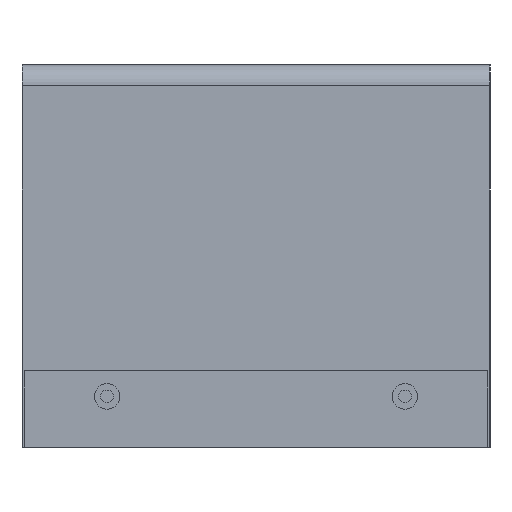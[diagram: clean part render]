
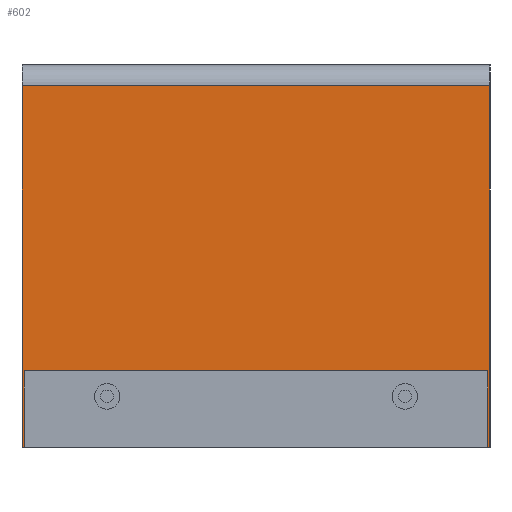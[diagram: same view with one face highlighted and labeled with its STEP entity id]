
A CAD part, left-side view. The second image highlights one B-rep face of the part: STEP entity #602.
In plain terms, the highlighted planar face has unit normal (-1, 0, 0).
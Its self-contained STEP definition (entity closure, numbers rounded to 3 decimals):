
#3 = CARTESIAN_POINT ( 'NONE',  ( -498.5, 55., 85. ) ) ;
#32 = CARTESIAN_POINT ( 'NONE',  ( -498.5, 55., 85. ) ) ;
#159 = CARTESIAN_POINT ( 'NONE',  ( -498.5, -55., 85. ) ) ;
#203 = DIRECTION ( 'NONE',  ( 1., 0., 0. ) ) ;
#322 = AXIS2_PLACEMENT_3D ( 'NONE', #159, #6054, #687 ) ;
#323 = CARTESIAN_POINT ( 'NONE',  ( -498.5, -35., 12. ) ) ;
#407 = CARTESIAN_POINT ( 'NONE',  ( -498.5, 55., 0. ) ) ;
#568 = EDGE_LOOP ( 'NONE', ( #5160, #962 ) ) ;
#584 = ORIENTED_EDGE ( 'NONE', *, *, #2586, .T. ) ;
#602 = ADVANCED_FACE ( 'NONE', ( #3729, #1257, #4653 ), #3622, .F. ) ;
#687 = DIRECTION ( 'NONE',  ( 0., 0., -1. ) ) ;
#697 = DIRECTION ( 'NONE',  ( 0., 0., -1. ) ) ;
#731 = VERTEX_POINT ( 'NONE', #4988 ) ;
#773 = EDGE_CURVE ( 'NONE', #1882, #3939, #6230, .T. ) ;
#855 = DIRECTION ( 'NONE',  ( 0., 0., 1. ) ) ;
#883 = VERTEX_POINT ( 'NONE', #2433 ) ;
#912 = LINE ( 'NONE', #2662, #919 ) ;
#919 = VECTOR ( 'NONE', #4632, 1000. ) ;
#962 = ORIENTED_EDGE ( 'NONE', *, *, #5222, .T. ) ;
#1131 = VECTOR ( 'NONE', #3526, 1000. ) ;
#1214 = CIRCLE ( 'NONE', #4384, 3. ) ;
#1257 = FACE_BOUND ( 'NONE', #5240, .T. ) ;
#1320 = CARTESIAN_POINT ( 'NONE',  ( -498.5, 35., 15. ) ) ;
#1366 = AXIS2_PLACEMENT_3D ( 'NONE', #323, #3797, #855 ) ;
#1371 = DIRECTION ( 'NONE',  ( -1., 0., 0. ) ) ;
#1604 = EDGE_CURVE ( 'NONE', #2894, #883, #4039, .T. ) ;
#1614 = DIRECTION ( 'NONE',  ( 1., 0., 0. ) ) ;
#1772 = ORIENTED_EDGE ( 'NONE', *, *, #3875, .F. ) ;
#1882 = VERTEX_POINT ( 'NONE', #1320 ) ;
#2060 = DIRECTION ( 'NONE',  ( 0., 0., 1. ) ) ;
#2085 = VERTEX_POINT ( 'NONE', #3 ) ;
#2089 = CARTESIAN_POINT ( 'NONE',  ( -498.5, 35., 12. ) ) ;
#2254 = CIRCLE ( 'NONE', #1366, 3. ) ;
#2289 = VERTEX_POINT ( 'NONE', #5194 ) ;
#2370 = ORIENTED_EDGE ( 'NONE', *, *, #1604, .T. ) ;
#2433 = CARTESIAN_POINT ( 'NONE',  ( -498.5, -55., 0. ) ) ;
#2545 = LINE ( 'NONE', #4538, #3268 ) ;
#2586 = EDGE_CURVE ( 'NONE', #2289, #2085, #2545, .T. ) ;
#2662 = CARTESIAN_POINT ( 'NONE',  ( -498.5, -55., 85. ) ) ;
#2807 = CARTESIAN_POINT ( 'NONE',  ( -498.5, -35., 9. ) ) ;
#2851 = VERTEX_POINT ( 'NONE', #2807 ) ;
#2894 = VERTEX_POINT ( 'NONE', #407 ) ;
#3154 = CARTESIAN_POINT ( 'NONE',  ( -498.5, 35., 12. ) ) ;
#3242 = EDGE_CURVE ( 'NONE', #2085, #2894, #4607, .T. ) ;
#3268 = VECTOR ( 'NONE', #4768, 1000. ) ;
#3479 = CIRCLE ( 'NONE', #5963, 3. ) ;
#3526 = DIRECTION ( 'NONE',  ( 0., -1., 0. ) ) ;
#3622 = PLANE ( 'NONE',  #322 ) ;
#3680 = DIRECTION ( 'NONE',  ( 0., 0., 1. ) ) ;
#3729 = FACE_BOUND ( 'NONE', #568, .T. ) ;
#3797 = DIRECTION ( 'NONE',  ( -1., 0., 0. ) ) ;
#3849 = CARTESIAN_POINT ( 'NONE',  ( -498.5, 35., 9. ) ) ;
#3875 = EDGE_CURVE ( 'NONE', #731, #2851, #2254, .T. ) ;
#3939 = VERTEX_POINT ( 'NONE', #3849 ) ;
#4039 = LINE ( 'NONE', #5243, #1131 ) ;
#4178 = ORIENTED_EDGE ( 'NONE', *, *, #3242, .T. ) ;
#4308 = CARTESIAN_POINT ( 'NONE',  ( -498.5, -35., 12. ) ) ;
#4372 = VECTOR ( 'NONE', #697, 1000. ) ;
#4374 = EDGE_CURVE ( 'NONE', #883, #2289, #912, .T. ) ;
#4384 = AXIS2_PLACEMENT_3D ( 'NONE', #3154, #203, #3680 ) ;
#4431 = AXIS2_PLACEMENT_3D ( 'NONE', #2089, #1614, #2060 ) ;
#4538 = CARTESIAN_POINT ( 'NONE',  ( -498.5, -55., 85. ) ) ;
#4607 = LINE ( 'NONE', #32, #4372 ) ;
#4632 = DIRECTION ( 'NONE',  ( 0., 0., 1. ) ) ;
#4653 = FACE_OUTER_BOUND ( 'NONE', #4903, .T. ) ;
#4768 = DIRECTION ( 'NONE',  ( 0., 1., 0. ) ) ;
#4802 = DIRECTION ( 'NONE',  ( 0., 0., 1. ) ) ;
#4903 = EDGE_LOOP ( 'NONE', ( #5788, #584, #4178, #2370 ) ) ;
#4988 = CARTESIAN_POINT ( 'NONE',  ( -498.5, -35., 15. ) ) ;
#5160 = ORIENTED_EDGE ( 'NONE', *, *, #773, .T. ) ;
#5194 = CARTESIAN_POINT ( 'NONE',  ( -498.5, -55., 85. ) ) ;
#5222 = EDGE_CURVE ( 'NONE', #3939, #1882, #1214, .T. ) ;
#5240 = EDGE_LOOP ( 'NONE', ( #1772, #6247 ) ) ;
#5243 = CARTESIAN_POINT ( 'NONE',  ( -498.5, -55., 0. ) ) ;
#5788 = ORIENTED_EDGE ( 'NONE', *, *, #4374, .T. ) ;
#5963 = AXIS2_PLACEMENT_3D ( 'NONE', #4308, #1371, #4802 ) ;
#6054 = DIRECTION ( 'NONE',  ( 1., 0., 0. ) ) ;
#6102 = EDGE_CURVE ( 'NONE', #2851, #731, #3479, .T. ) ;
#6230 = CIRCLE ( 'NONE', #4431, 3. ) ;
#6247 = ORIENTED_EDGE ( 'NONE', *, *, #6102, .F. ) ;
